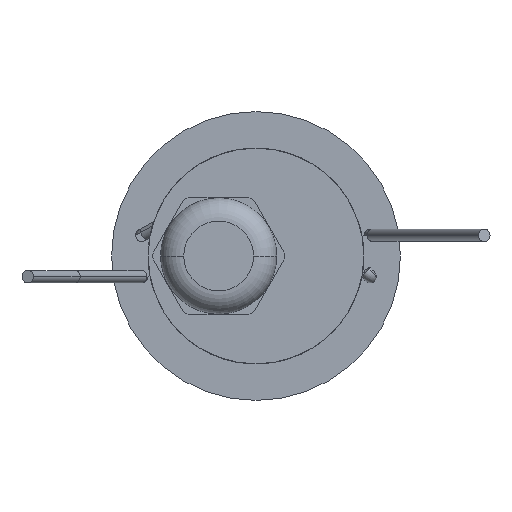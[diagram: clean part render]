
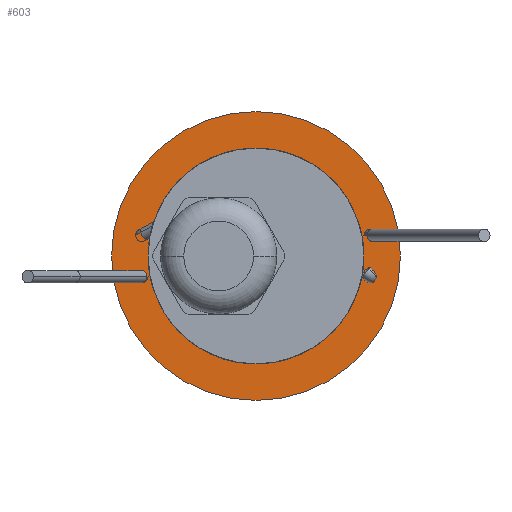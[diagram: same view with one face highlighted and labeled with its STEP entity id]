
A CAD part, front view. The second image highlights one B-rep face of the part: STEP entity #603.
In plain terms, the highlighted planar face has unit normal (0, -1, 0).
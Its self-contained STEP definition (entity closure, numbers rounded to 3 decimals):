
#473=CARTESIAN_POINT('',(0.,31.,0.));
#474=DIRECTION('',(0.,-1.,0.));
#475=DIRECTION('',(1.,0.,0.));
#476=AXIS2_PLACEMENT_3D('',#473,#474,#475);
#515=CARTESIAN_POINT('',(0.,31.,0.));
#516=DIRECTION('',(0.,1.,0.));
#517=DIRECTION('',(1.,0.,0.));
#518=AXIS2_PLACEMENT_3D('',#515,#516,#517);
#548=CARTESIAN_POINT('',(17.4,31.,0.));
#549=CARTESIAN_POINT('',(-17.4,31.,0.));
#550=VERTEX_POINT('',#548);
#551=VERTEX_POINT('',#549);
#592=CARTESIAN_POINT('',(0.,31.,0.));
#593=DIRECTION('',(0.,-1.,0.));
#594=DIRECTION('',(-1.,0.,0.));
#595=AXIS2_PLACEMENT_3D('',#592,#593,#594);
#596=PLANE('',#595);
#598=ORIENTED_EDGE('',*,*,#597,.F.);
#600=ORIENTED_EDGE('',*,*,#599,.T.);
#601=EDGE_LOOP('',(#598,#600));
#602=FACE_OUTER_BOUND('',#601,.F.);
#603=ADVANCED_FACE('',(#602),#596,.T.);
#477=CIRCLE('',#476,17.4);
#519=CIRCLE('',#518,17.4);
#597=EDGE_CURVE('',#550,#551,#477,.T.);
#599=EDGE_CURVE('',#550,#551,#519,.T.);
